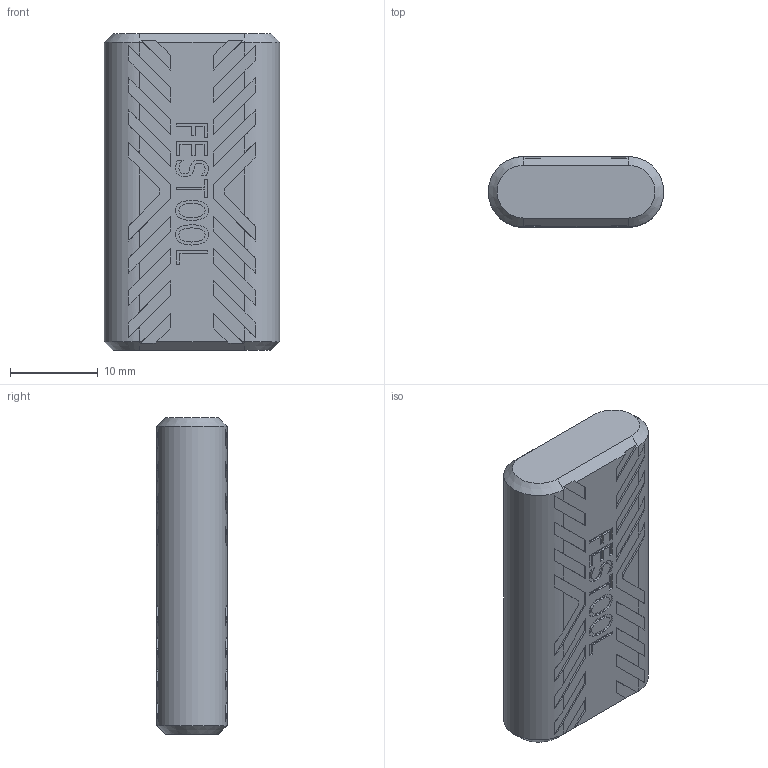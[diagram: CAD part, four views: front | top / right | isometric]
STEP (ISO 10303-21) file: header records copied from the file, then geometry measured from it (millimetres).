
FILE_DESCRIPTION(('Creo Elements/Direct Modeling STEP Export'),'2;1');
FILE_NAME('Domino_8x36.stp','2024-01-19T 8:05:20',(''),(''),'Creo Elements/Direct Modeling STEP processor for AP214 (Solid Model)','Creo Elements/Direct Modeling 20.5A 14-Oct-2022 (C) Parametric Technology GmbH','');
FILE_SCHEMA(('AUTOMOTIVE_DESIGN { 1 0 10303 214 1 1 1 1 }'));
Length unit declared in the file: millimetre
Products named in the file (1): 8x36_10032860
Bounding box: 20 x 8 x 36.1 mm (x, y, z)
Volume: 5169.9 mm3; surface area: 2157.8 mm2
Topology: 1 solids, 1 shells, 730 faces, 2101 edges, 1398 vertices
Faces by surface type: plane 724, cone 4, cylinder 2
Entity records: 22987 total; most frequent: ORIENTED_EDGE 4202, CARTESIAN_POINT 4114, DIRECTION 3475, EDGE_CURVE 2101, VECTOR 1957, LINE 1957, VERTEX_POINT 1398, AXIS2_PLACEMENT_3D 759
